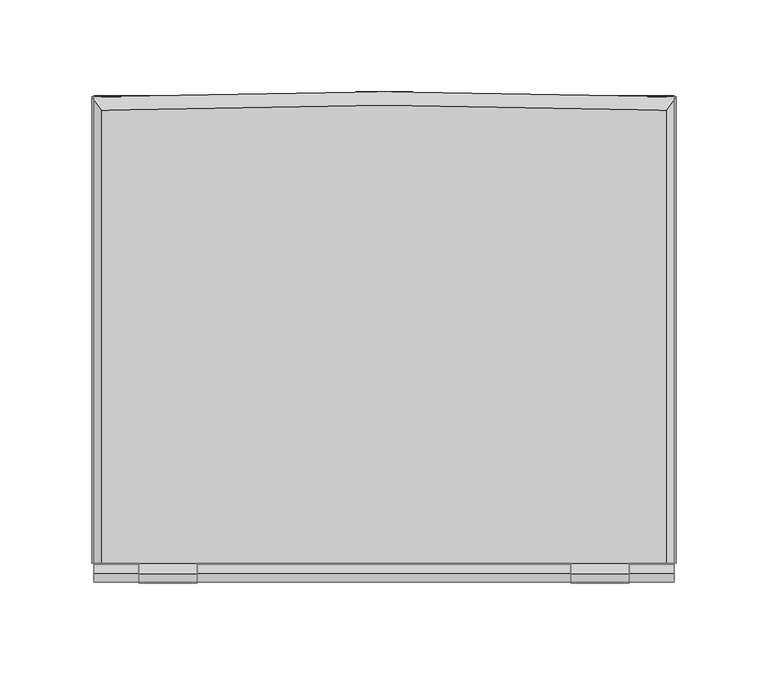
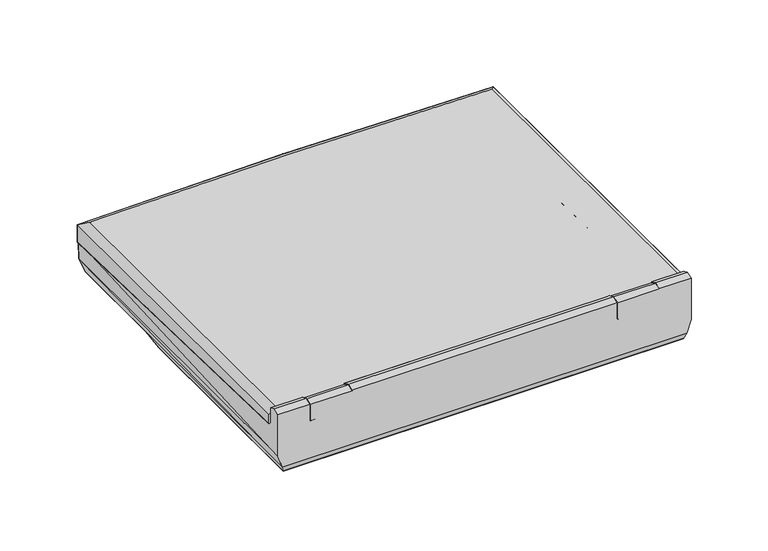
"""IFC4 building model written with IfcOpenShell, lengths in millimetres: proxy geometry, RPC Notebook Computer : RPC Notebook Computer."""

from ifc_helpers import new_model, si_unit, origin, place, context, project, spatial, triangles, source, transform, mapped, element, save


def entourage_dd2dcfdb(model_context):
    return source(origin(), model_context, "Body", "Tessellation", [
        triangles([(158.4298827, 167.5815043, 28.2219283), (101.7498122, -97.7315346, 35.1332638), (101.7498122, -97.7315346, 48.4911172), (101.7498122, -92.7963162, 50.2665766), (101.7498122, -87.916981, 48.1837777), (101.7498122, -87.916981, 35.1332638), (158.4298827, -87.916981, 35.1332638), (133.8223821, -97.7290002, 35.1332638), (133.8223821, -97.7315346, 48.4911172), (133.8223821, -92.7963162, 50.2665766), (133.8223821, -87.916981, 48.1837777), (133.8223821, -87.916981, 35.1332638), (-158.4324261, 167.5815043, 28.2219283), (-101.7498122, -97.7315346, 35.1332638), (-101.7498122, -97.7315346, 48.4911172), (-101.7498122, -92.7963162, 50.2665766), (-101.7498122, -87.916981, 48.1837777), (-101.7498122, -87.916981, 35.1332638), (-85.2322067, 66.8400699, 31.8084055), (144.8815363, 53.1647191, 31.9658859), (-85.2322067, 53.1647191, 31.9658859), (144.8815363, -60.6704156, 34.1909249), (-146.9211556, -74.3381496, 34.2925244), (-146.9211556, 66.8400699, 31.8084055), (-158.4324261, -87.916981, 35.1332638), (-133.8249256, -97.7315346, 35.1332638), (-133.8249256, -97.7315346, 48.4911172), (-133.8249256, -92.7963162, 50.2665766), (-133.8249256, -87.916981, 48.1837777), (-133.8249256, -87.916981, 35.1332638), (142.7072958, -58.4936362, 29.3903277), (-15.885153, -74.3381496, 34.2925244), (-19.0347518, -72.5753893, 29.4919271), (-15.885153, -60.6704156, 34.1909249), (-19.0347518, -58.4936362, 29.3903277), (155.2853798, 164.0509058, 4.7853581), (155.2853798, 83.3297429, 4.8691778), (153.4718096, 69.0041502, 0.0), (153.4718096, -95.8773418, 0.0), (-155.2879051, 164.0509058, 4.7853581), (-155.2853798, 83.3297429, 4.8691778), (-153.4718096, 69.0041502, 0.0), (-153.4718096, -95.8773418, 0.0), (155.2853798, -97.7315346, 4.8691778), (158.4298827, -97.7315346, 14.9047134), (158.4298827, -97.7315346, 48.4911172), (-155.2853798, -97.7315346, 4.8691778), (-158.4324261, -97.7315346, 14.9047134), (-158.4324261, -97.7315346, 48.4911172), (158.4298827, -92.7963162, 50.2665766), (158.4298827, -87.916981, 48.1837777), (-158.4324261, -92.7963162, 50.2665766), (-158.4324261, -87.916981, 48.1837777), (158.620387, 166.8093494, 14.9047134), (-158.620387, 166.8093494, 14.9047134), (-87.4064381, 64.9655522, 27.0992475), (142.7072958, 51.2901969, 27.254189), (-87.4064381, 51.2901969, 27.254189), (-144.7469152, -72.5753893, 29.4919271), (-144.7469152, 64.9655522, 27.0992475), (-141.2264814, 62.1182151, 32.9717247), (-90.9268809, 62.1182151, 32.9717247), (138.3740574, 48.4428598, 33.1266662), (-90.9268809, 48.4428598, 33.1266662), (138.3740574, -55.4557947, 35.1129458), (-141.2264814, -69.5375478, 35.2170841), (-21.88209, -55.4557947, 35.1129458), (-21.88209, -69.5375478, 35.2170841), (0.0, -78.9884472, 38.7774296), (0.0, 148.3192353, 34.6999191), (145.6917975, -78.9898461, 38.7725471), (145.6917975, 148.3192353, 34.6999191), (-145.1101379, -78.9898461, 38.7725471), (-145.1101379, 148.3192353, 34.6999191), (0.0, -80.5419043, 35.3042563), (0.0, 149.5303895, 31.5517237), (147.9066787, -80.5408597, 35.2986721), (147.9066787, 149.5303895, 31.5517237), (-147.3250191, -80.5408597, 35.2986721), (-147.3250191, 149.5303895, 31.5517237), (0.0, 169.8363085, 28.075512), (0.0, 169.7933787, 42.338068), (159.4433564, 167.0175307, 28.4002287), (159.4433564, 166.9753095, 42.6652237), (-159.4433564, 167.0175307, 28.4002287), (-159.4433564, 166.9753095, 42.6652237), (0.0, 162.5082493, 46.530363), (0.0, -87.4705057, 47.1443607), (101.7498122, -98.2050249, 48.5683154), (154.0179063, 159.6894715, 46.8550797), (101.7498122, -87.4705057, 47.1443607), (133.8223821, -98.2036442, 48.554708), (133.7334795, -87.4705057, 47.1443607), (154.0179063, -87.4705057, 47.1443607), (133.8223821, -93.2696067, 50.3265838), (101.7498122, -93.2696067, 50.3265838), (159.4433564, -87.47205, 42.9645877), (-101.7498122, -98.2050249, 48.5683154), (-154.0179063, 159.6894715, 46.8550797), (-101.7498122, -87.4705057, 47.1443607), (-133.8223821, -98.2036442, 48.554708), (-133.7334795, -87.4705057, 47.1443607), (-154.0179063, -87.4705057, 47.1443607), (-133.8223821, -93.2696067, 50.3265838), (-101.7498122, -93.2696067, 50.3265838), (-159.4433564, -87.47205, 42.9645877), (0.0, -87.4750749, 35.3977394), (101.7498122, -98.2072959, 35.1986305), (101.7498122, -87.4736669, 35.4026219), (133.8223821, -98.2072959, 35.1986305), (-101.7498122, -98.2072959, 35.1986305), (-101.7498122, -87.4736669, 35.4026219), (-133.8223821, -98.2072959, 35.1986305), (133.7334795, -87.4736669, 35.4026219), (159.4433564, -87.4733308, 35.3945965), (-133.7334795, -87.4736669, 35.4026219), (-159.4433564, -87.4733308, 35.3945965), (0.0, 167.5664616, 28.1582717), (156.9439995, 164.7484105, 28.4854297), (159.4433564, 69.721412, 31.075481), (0.0, 165.6881242, 31.2097592), (155.5012642, 162.8725076, 31.5362178), (-156.9439995, 164.7484105, 28.4854297), (-159.4433564, 69.721412, 31.075481), (-155.5012642, 162.8725076, 31.5362178)], [[19, 1, 13], [2, 6, 3], [3, 6, 4], [4, 6, 5], [12, 6, 8], [8, 6, 2], [11, 12, 10], [10, 12, 9], [9, 12, 8], [21, 20, 19], [20, 1, 19], [22, 6, 12], [1, 20, 7], [22, 12, 7], [23, 6, 32], [18, 6, 23], [19, 13, 24], [14, 15, 18], [15, 16, 18], [16, 17, 18], [30, 26, 18], [26, 14, 18], [29, 28, 30], [28, 27, 30], [27, 26, 30], [24, 25, 23], [23, 30, 18], [13, 25, 24], [23, 25, 30], [32, 6, 22], [22, 34, 32], [31, 33, 35], [37, 41, 36], [36, 41, 40], [42, 41, 38], [38, 41, 37], [39, 43, 38], [38, 43, 42], [44, 8, 2], [8, 44, 45], [45, 46, 9], [9, 8, 45], [44, 47, 39], [39, 47, 43], [2, 14, 47], [2, 47, 44], [3, 15, 14], [3, 14, 2], [47, 14, 26], [26, 48, 47], [48, 27, 49], [27, 48, 26], [50, 51, 11], [11, 10, 50], [5, 17, 16], [5, 16, 4], [52, 29, 53], [29, 52, 28], [46, 50, 10], [10, 9, 46], [4, 16, 15], [4, 15, 3], [49, 28, 52], [28, 49, 27], [13, 1, 55], [55, 1, 54], [55, 54, 40], [40, 54, 36], [55, 40, 41], [48, 52, 25], [52, 48, 49], [53, 25, 52], [41, 43, 47], [13, 48, 25], [55, 47, 48], [43, 41, 42], [48, 13, 55], [47, 55, 41], [51, 7, 12], [12, 11, 51], [6, 18, 17], [6, 17, 5], [53, 30, 25], [30, 53, 29], [54, 37, 36], [45, 7, 50], [50, 46, 45], [51, 50, 7], [37, 44, 39], [1, 7, 45], [54, 45, 44], [39, 38, 37], [45, 54, 1], [44, 37, 54], [57, 31, 22], [23, 32, 33], [33, 59, 23], [20, 21, 58], [58, 57, 20], [21, 19, 56], [56, 58, 21], [19, 24, 60], [60, 56, 19], [24, 23, 59], [59, 60, 24], [34, 22, 31], [31, 35, 34], [33, 32, 34], [34, 35, 33], [59, 35, 33], [20, 22, 7], [22, 20, 57], [67, 65, 63], [67, 63, 64], [64, 62, 61], [66, 64, 61], [31, 57, 63], [63, 65, 31], [35, 31, 65], [65, 67, 35], [57, 58, 64], [64, 63, 57], [58, 56, 62], [62, 64, 58], [56, 60, 61], [61, 62, 56], [60, 59, 66], [66, 61, 60], [66, 67, 64], [68, 66, 59], [59, 33, 68], [35, 67, 68], [68, 33, 35], [66, 68, 67], [69, 70, 72], [69, 72, 71], [69, 74, 70], [69, 73, 74], [76, 78, 72], [72, 70, 76], [77, 75, 69], [69, 71, 77], [78, 77, 71], [71, 72, 78], [76, 74, 80], [74, 76, 70], [79, 69, 75], [69, 79, 73], [80, 73, 79], [73, 80, 74], [81, 82, 84], [81, 84, 83], [81, 86, 82], [81, 85, 86], [82, 87, 90], [82, 90, 84], [87, 88, 91], [87, 91, 90], [90, 91, 93], [96, 89, 92], [96, 92, 95], [90, 93, 94], [97, 90, 94], [91, 95, 93], [91, 96, 95], [97, 84, 90], [82, 99, 87], [82, 86, 99], [87, 100, 88], [87, 99, 100], [99, 102, 100], [105, 101, 98], [105, 104, 101], [102, 99, 103], [106, 103, 99], [100, 102, 104], [100, 104, 105], [106, 99, 86], [89, 108, 110], [89, 110, 92], [96, 91, 89], [89, 91, 108], [108, 91, 109], [91, 88, 109], [109, 88, 107], [98, 113, 111], [98, 101, 113], [105, 98, 100], [98, 111, 100], [111, 112, 100], [100, 112, 88], [112, 107, 88], [93, 114, 115], [93, 115, 97], [95, 92, 93], [93, 92, 114], [114, 92, 110], [93, 97, 94], [102, 117, 116], [102, 106, 117], [104, 102, 101], [102, 116, 101], [116, 113, 101], [102, 103, 106], [108, 109, 114], [108, 114, 110], [81, 83, 119], [109, 107, 75], [75, 77, 109], [114, 109, 77], [120, 115, 77], [114, 77, 115], [119, 118, 81], [77, 78, 120], [119, 120, 122], [76, 121, 122], [76, 122, 78], [119, 122, 121], [119, 121, 118], [120, 78, 122], [83, 120, 119], [111, 116, 112], [111, 113, 116], [81, 123, 85], [112, 75, 107], [75, 112, 79], [116, 79, 112], [124, 79, 117], [117, 79, 116], [123, 81, 118], [79, 124, 80], [123, 125, 124], [76, 125, 121], [76, 80, 125], [123, 121, 125], [123, 118, 121], [124, 125, 80], [85, 123, 124], [117, 86, 124], [117, 106, 86], [124, 86, 85], [115, 120, 84], [115, 84, 97], [120, 83, 84]], closed=False),
    ])


if __name__ == "__main__":
    model = new_model("IFC4")
    model_context = context("Model", 3, world=origin())
    ifc_project = project(units=[si_unit("LENGTHUNIT", "METRE", prefix="MILLI")], contexts=[model_context])
    site = spatial("IfcSite", under=ifc_project)
    building = spatial("IfcBuilding", under=site)
    placement = place(None, origin())
    entourage_shape = entourage_dd2dcfdb(model_context)
    element("IfcBuildingElementProxy", 1, Name="RPC Notebook Computer : RPC Notebook Computer", ObjectType="RPC Notebook Computer : RPC Notebook Computer", at=placement, inside=building, context=model_context, shape_type="MappedRepresentation", body=[
        mapped(entourage_shape, transform((0.0, 0.0, 0.0), x_axis=(1.0, 0.0, 0.0), y_axis=(0.0, 1.0, 0.0), z_axis=(0.0, 0.0, 1.0))),
    ])
    save(model, "model.ifc")
